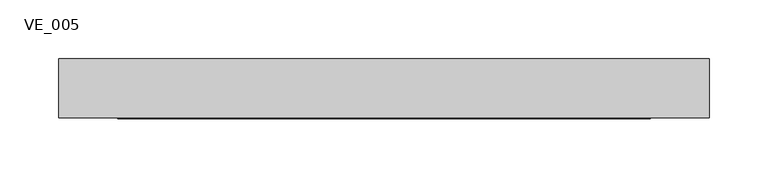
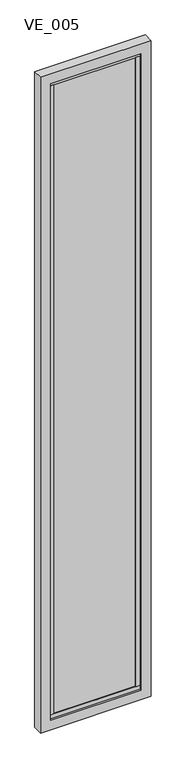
"""IFC4 building model written with IfcOpenShell, lengths in millimetres: plate geometry, TRP_CP_ARC_PF_RE : VE_005."""

from ifc_helpers import new_model, si_unit, frame, origin, place, context, project, spatial, polyline, outline, extrude, source, transform, mapped, element, save


def ve_005_c46f1006(model_context):
    return source(origin(), model_context, "Body", "SweptSolid", [
        extrude(outline(polyline([(205.5483539, -10.0), (-205.5483539, -10.0), (-205.5483539, 10.0), (205.5483539, 10.0), (205.5483539, -10.0)])), frame((0.0, 0.0, 70.0), z_axis=(0.0, 0.0, 1.0), x_axis=(1.0, 0.0, 0.0)), (0.0, 0.0, 1.0), 3310.0),
        extrude(outline(polyline([(225.5483539, -15.0), (205.5483539, -15.0), (205.5483539, 15.0), (225.5483539, 15.0), (225.5483539, -15.0)])), frame((0.0, 0.0, 70.0), z_axis=(0.0, 0.0, 1.0), x_axis=(1.0, 0.0, 0.0)), (0.0, 0.0, 1.0), 3310.0),
        extrude(outline(polyline([(-205.5483539, -15.0), (-225.5483539, -15.0), (-225.5483539, 15.0), (-205.5483539, 15.0), (-205.5483539, -15.0)])), frame((0.0, 0.0, 70.0), z_axis=(0.0, 0.0, 1.0), x_axis=(1.0, 0.0, 0.0)), (0.0, 0.0, 1.0), 3310.0),
        extrude(outline(polyline([(225.5483539, -15.0), (-225.5483539, -15.0), (-225.5483539, 15.0), (225.5483539, 15.0), (225.5483539, -15.0)])), frame((0.0, 0.0, 50.0), z_axis=(0.0, 0.0, 1.0), x_axis=(1.0, 0.0, 0.0)), (0.0, 0.0, 1.0), 20.0),
        extrude(outline(polyline([(225.5483539, -15.0), (-225.5483539, -15.0), (-225.5483539, 15.0), (225.5483539, 15.0), (225.5483539, -15.0)])), frame((0.0, 0.0, 3380.0), z_axis=(0.0, 0.0, 1.0), x_axis=(1.0, 0.0, 0.0)), (0.0, 0.0, 1.0), 20.0),
        extrude(outline(polyline([(3450.0, 275.5483539), (3450.0, -275.5483539), (0.0, -275.5483539), (0.0, 275.5483539), (3450.0, 275.5483539)]), holes=[polyline([(50.0, 225.5483539), (50.0, -225.5483539), (3400.0, -225.5483539), (3400.0, 225.5483539), (50.0, 225.5483539)])]), frame((0.0, -25.0, 0.0), z_axis=(0.0, 1.0, 0.0), x_axis=(0.0, 0.0, 1.0)), (0.0, 0.0, 1.0), 50.0),
    ])


if __name__ == "__main__":
    model = new_model("IFC4")
    model_context = context("Model", 3, world=origin())
    ifc_project = project(units=[si_unit("LENGTHUNIT", "METRE", prefix="MILLI")], contexts=[model_context])
    site = spatial("IfcSite", under=ifc_project)
    building = spatial("IfcBuilding", under=site)
    placement = place(None, origin())
    ve_005_shape = ve_005_c46f1006(model_context)
    element("IfcPlate", 1, ObjectType="TRP_CP_ARC_PF_RE : VE_005", at=placement, inside=building, context=model_context, shape_type="MappedRepresentation", body=[
        mapped(ve_005_shape, transform((0.0, 0.0, 0.0), x_axis=(1.0, 0.0, 0.0), y_axis=(0.0, 1.0, 0.0), z_axis=(0.0, 0.0, 1.0))),
    ])
    save(model, "model.ifc")
